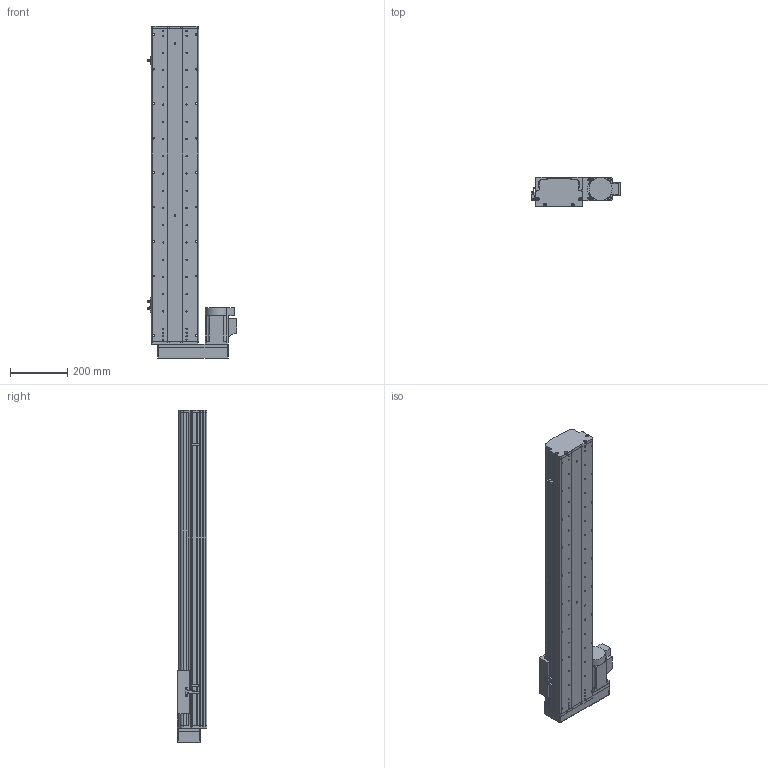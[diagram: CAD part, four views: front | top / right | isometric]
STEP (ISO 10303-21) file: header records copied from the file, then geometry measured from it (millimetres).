
FILE_DESCRIPTION (( 'STEP AP214' ), '1' );
FILE_NAME ('KSD165S-S850-ML-CM.STEP', '2017-10-17T08:59:28', ( '微软用户' ), ( '微软中国' ), 'SwSTEP 2.0', 'SolidWorks 2014', '' );
FILE_SCHEMA (( 'AUTOMOTIVE_DESIGN' ));
Length unit declared in the file: millimetre
Products named in the file (16): 165宽模组保护罩左右折; KSD165模组-防尘盖1-850行程-最新版; KSD165模组底板-850行程-最新; KSD165耀郪-佪裝-滅袉菜-3 -; KSD165耀郪-佪裝-滅袉菜-1; U倰嫖萇假蚾璃; KSD165耀郪-綴傷啣1; KSD165模组-丝杆滑动座-最新版; KSD165S-S850-ML-CM; U倰嫖萇EEㄜSX672; 覜茼え68遵圉猾敕; 拸秶雄ん750W侜督萇儂; KSD165模组-丝杆上下左右折前端板; HTPA26S5M250-A-H8丝杆用(内径14）; HTPA26S5M250-A-H8 750W萇儂蚚; 165宽模组马达安装板连板左右折丝杆
Assembly tree (19 placements, depth 2):
  KSD165S-S850-ML-CM
    KSD165模组-丝杆滑动座-最新版
    KSD165耀郪-綴傷啣1
    U倰嫖萇假蚾璃  x3
    KSD165耀郪-佪裝-滅袉菜-1
    KSD165耀郪-佪裝-滅袉菜-3 -
    KSD165模组底板-850行程-最新
    KSD165模组-防尘盖1-850行程-最新版
    165宽模组保护罩左右折
    165宽模组马达安装板连板左右折丝杆
    HTPA26S5M250-A-H8 750W萇儂蚚
    HTPA26S5M250-A-H8丝杆用(内径14）
    KSD165模组-丝杆上下左右折前端板
    拸秶雄ん750W侜督萇儂
    覜茼え68遵圉猾敕
    U倰嫖萇EEㄜSX672  x3
Bounding box: 311.2 x 104 x 1155.5 mm (x, y, z)
Volume: 7196584.4 mm3; surface area: 1667777.1 mm2
Topology: 20 solids, 20 shells, 1835 faces, 5210 edges, 3407 vertices
Faces by surface type: cylinder 1191, plane 543, cone 101
Entity records: 60427 total; most frequent: CARTESIAN_POINT 12583, DIRECTION 9741, ORIENTED_EDGE 9108, EDGE_CURVE 4554, AXIS2_PLACEMENT_3D 3821, VERTEX_POINT 2999, CIRCLE 2184, VECTOR 2099
